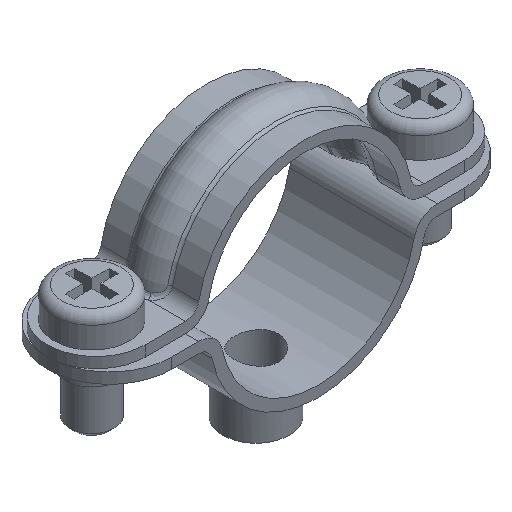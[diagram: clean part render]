
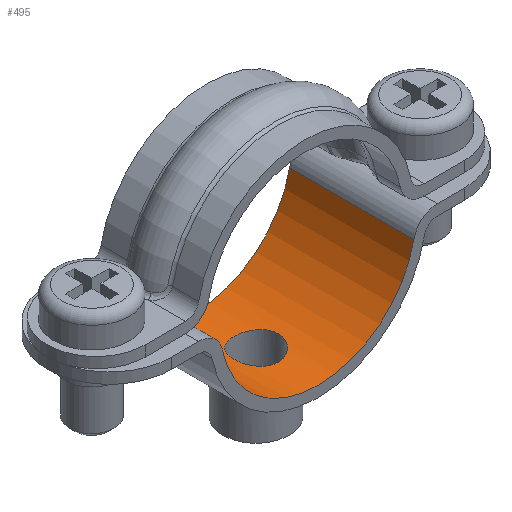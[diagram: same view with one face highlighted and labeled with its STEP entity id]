
A CAD part, isometric view. The second image highlights one B-rep face of the part: STEP entity #495.
In plain terms, the highlighted cylindrical face has radius 11 mm (diameter 22 mm), a partial arc.
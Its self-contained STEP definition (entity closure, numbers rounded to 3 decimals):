
#69=B_SPLINE_CURVE_WITH_KNOTS('',3,(#3331,#3332,#3333,#3334,#3335,#3336,
#3337,#3338,#3339,#3340,#3341,#3342,#3343,#3344,#3345,#3346,#3347,#3348,
#3349,#3350,#3351,#3352,#3353,#3354,#3355,#3356,#3357,#3358,#3359,#3360,
#3361,#3362,#3363,#3364,#3365,#3366,#3367,#3368,#3369,#3370,#3371,#3372,
#3373,#3374,#3375,#3376,#3377,#3378,#3379,#3380,#3381,#3382,#3383,#3384,
#3385,#3386,#3387,#3388),.UNSPECIFIED.,.T.,.F.,(1,3,3,3,3,3,3,3,3,3,3,3,
3,3,3,3,3,3,3,3,3,1),(-0.042,0.,0.053,0.105,
0.159,0.213,0.267,0.319,
0.371,0.425,0.479,0.532,
0.584,0.638,0.692,0.745,0.798,
0.85,0.904,0.958,1.,1.053),
 .UNSPECIFIED.);
#183=LINE('',#3393,#279);
#184=LINE('',#3397,#280);
#279=VECTOR('',#2258,1.);
#280=VECTOR('',#2261,1.);
#495=ADVANCED_FACE('',(#603,#604),#556,.F.);
#556=CYLINDRICAL_SURFACE('',#1870,11.);
#603=FACE_BOUND('',#723,.T.);
#604=FACE_BOUND('',#724,.T.);
#723=EDGE_LOOP('',(#1081));
#724=EDGE_LOOP('',(#1082,#1083,#1084,#1085));
#1081=ORIENTED_EDGE('',*,*,#1564,.F.);
#1082=ORIENTED_EDGE('',*,*,#1565,.F.);
#1083=ORIENTED_EDGE('',*,*,#1566,.F.);
#1084=ORIENTED_EDGE('',*,*,#1567,.T.);
#1085=ORIENTED_EDGE('',*,*,#1568,.F.);
#1357=VERTEX_POINT('',#3389);
#1358=VERTEX_POINT('',#3391);
#1359=VERTEX_POINT('',#3392);
#1360=VERTEX_POINT('',#3394);
#1361=VERTEX_POINT('',#3396);
#1564=EDGE_CURVE('',#1357,#1357,#69,.T.);
#1565=EDGE_CURVE('',#1358,#1359,#1707,.T.);
#1566=EDGE_CURVE('',#1360,#1358,#183,.T.);
#1567=EDGE_CURVE('',#1360,#1361,#1708,.T.);
#1568=EDGE_CURVE('',#1359,#1361,#184,.T.);
#1707=CIRCLE('',#1868,11.);
#1708=CIRCLE('',#1869,11.);
#1868=AXIS2_PLACEMENT_3D('',#3390,#2256,#2257);
#1869=AXIS2_PLACEMENT_3D('',#3395,#2259,#2260);
#1870=AXIS2_PLACEMENT_3D('',#3398,#2262,#2263);
#2256=DIRECTION('',(0.,1.,0.));
#2257=DIRECTION('',(1.,0.,0.));
#2258=DIRECTION('',(0.,-1.,0.));
#2259=DIRECTION('',(0.,1.,0.));
#2260=DIRECTION('',(1.,0.,0.));
#2261=DIRECTION('',(0.,1.,0.));
#2262=DIRECTION('',(0.,-1.,0.));
#2263=DIRECTION('',(0.,0.,-1.));
#3331=CARTESIAN_POINT('',(2.5,0.,-10.712));
#3332=CARTESIAN_POINT('',(2.5,0.276,-10.712));
#3333=CARTESIAN_POINT('',(2.453,0.555,-10.723));
#3334=CARTESIAN_POINT('',(2.363,0.815,-10.743));
#3335=CARTESIAN_POINT('',(2.274,1.075,-10.763));
#3336=CARTESIAN_POINT('',(2.139,1.323,-10.791));
#3337=CARTESIAN_POINT('',(1.971,1.539,-10.822));
#3338=CARTESIAN_POINT('',(1.799,1.758,-10.853));
#3339=CARTESIAN_POINT('',(1.588,1.951,-10.887));
#3340=CARTESIAN_POINT('',(1.354,2.102,-10.916));
#3341=CARTESIAN_POINT('',(1.117,2.254,-10.946));
#3342=CARTESIAN_POINT('',(0.85,2.368,-10.971));
#3343=CARTESIAN_POINT('',(0.575,2.433,-10.985));
#3344=CARTESIAN_POINT('',(0.304,2.497,-10.999));
#3345=CARTESIAN_POINT('',(0.018,2.515,-11.003));
#3346=CARTESIAN_POINT('',(-0.259,2.487,-10.997));
#3347=CARTESIAN_POINT('',(-0.531,2.458,-10.991));
#3348=CARTESIAN_POINT('',(-0.801,2.384,-10.974));
#3349=CARTESIAN_POINT('',(-1.048,2.27,-10.95));
#3350=CARTESIAN_POINT('',(-1.297,2.155,-10.926));
#3351=CARTESIAN_POINT('',(-1.53,1.996,-10.895));
#3352=CARTESIAN_POINT('',(-1.728,1.807,-10.863));
#3353=CARTESIAN_POINT('',(-1.93,1.614,-10.831));
#3354=CARTESIAN_POINT('',(-2.102,1.383,-10.798));
#3355=CARTESIAN_POINT('',(-2.229,1.133,-10.772));
#3356=CARTESIAN_POINT('',(-2.356,0.882,-10.745));
#3357=CARTESIAN_POINT('',(-2.442,0.605,-10.726));
#3358=CARTESIAN_POINT('',(-2.479,0.324,-10.717));
#3359=CARTESIAN_POINT('',(-2.515,0.051,-10.709));
#3360=CARTESIAN_POINT('',(-2.504,-0.234,-10.711));
#3361=CARTESIAN_POINT('',(-2.449,-0.504,-10.724));
#3362=CARTESIAN_POINT('',(-2.394,-0.771,-10.737));
#3363=CARTESIAN_POINT('',(-2.293,-1.032,-10.759));
#3364=CARTESIAN_POINT('',(-2.156,-1.266,-10.787));
#3365=CARTESIAN_POINT('',(-2.016,-1.504,-10.815));
#3366=CARTESIAN_POINT('',(-1.834,-1.721,-10.848));
#3367=CARTESIAN_POINT('',(-1.625,-1.9,-10.879));
#3368=CARTESIAN_POINT('',(-1.411,-2.083,-10.911));
#3369=CARTESIAN_POINT('',(-1.163,-2.231,-10.942));
#3370=CARTESIAN_POINT('',(-0.899,-2.333,-10.963));
#3371=CARTESIAN_POINT('',(-0.638,-2.433,-10.985));
#3372=CARTESIAN_POINT('',(-0.355,-2.491,-10.998));
#3373=CARTESIAN_POINT('',(-0.074,-2.499,-11.));
#3374=CARTESIAN_POINT('',(0.201,-2.507,-11.002));
#3375=CARTESIAN_POINT('',(0.481,-2.469,-10.993));
#3376=CARTESIAN_POINT('',(0.742,-2.387,-10.975));
#3377=CARTESIAN_POINT('',(1.003,-2.306,-10.957));
#3378=CARTESIAN_POINT('',(1.253,-2.18,-10.931));
#3379=CARTESIAN_POINT('',(1.473,-2.02,-10.901));
#3380=CARTESIAN_POINT('',(1.697,-1.856,-10.871));
#3381=CARTESIAN_POINT('',(1.897,-1.652,-10.836));
#3382=CARTESIAN_POINT('',(2.055,-1.424,-10.806));
#3383=CARTESIAN_POINT('',(2.215,-1.193,-10.776));
#3384=CARTESIAN_POINT('',(2.338,-0.929,-10.749));
#3385=CARTESIAN_POINT('',(2.412,-0.657,-10.732));
#3386=CARTESIAN_POINT('',(2.47,-0.444,-10.719));
#3387=CARTESIAN_POINT('',(2.5,-0.221,-10.712));
#3388=CARTESIAN_POINT('',(2.5,0.,-10.712));
#3389=CARTESIAN_POINT('',(2.5,0.,-10.712));
#3390=CARTESIAN_POINT('',(0.,-7.,0.));
#3391=CARTESIAN_POINT('',(10.784,-7.,-2.168));
#3392=CARTESIAN_POINT('',(-10.784,-7.,-2.168));
#3393=CARTESIAN_POINT('',(10.784,5.5,-2.168));
#3394=CARTESIAN_POINT('',(10.784,7.,-2.168));
#3395=CARTESIAN_POINT('',(0.,7.,0.));
#3396=CARTESIAN_POINT('',(-10.784,7.,-2.168));
#3397=CARTESIAN_POINT('',(-10.784,5.5,-2.168));
#3398=CARTESIAN_POINT('',(0.,5.5,0.));
